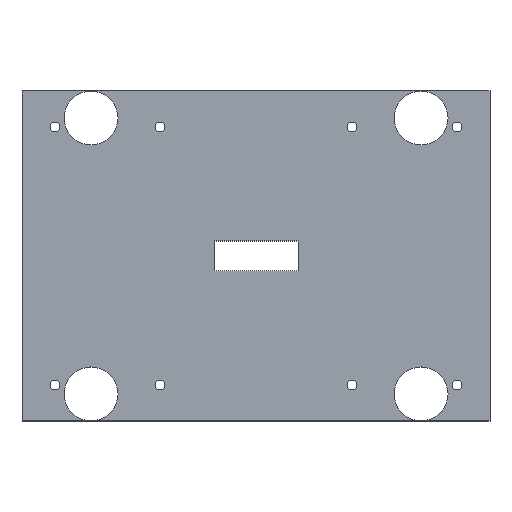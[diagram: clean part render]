
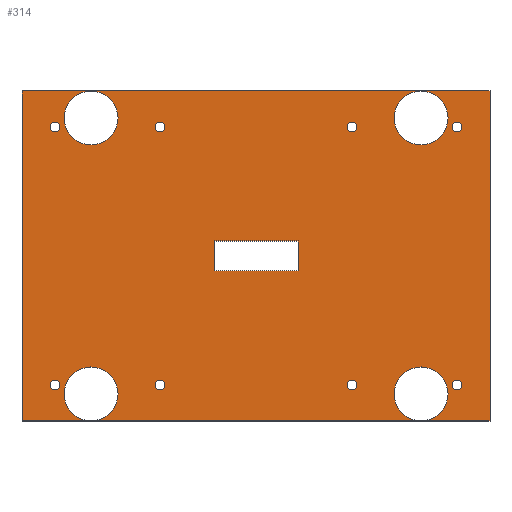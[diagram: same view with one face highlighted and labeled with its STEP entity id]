
A CAD part, top view. The second image highlights one B-rep face of the part: STEP entity #314.
In plain terms, the highlighted planar face has unit normal (0, 0, 1).
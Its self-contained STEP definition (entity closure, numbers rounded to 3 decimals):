
#288 = VERTEX_POINT('',#289);
#289 = CARTESIAN_POINT('',(-78.,55.,56.5));
#295 = EDGE_CURVE('',#288,#296,#298,.T.);
#296 = VERTEX_POINT('',#297);
#297 = CARTESIAN_POINT('',(-78.,-55.,56.5));
#298 = LINE('',#299,#300);
#299 = CARTESIAN_POINT('',(-78.,55.,56.5));
#300 = VECTOR('',#301,1.);
#301 = DIRECTION('',(0.,-1.,0.));
#314 = ADVANCED_FACE('',(#315,#372,#383,#401,#412,#423,#441,#452,#463,
    #481,#492,#526,#537,#555),#566,.T.);
#315 = FACE_BOUND('',#316,.T.);
#316 = EDGE_LOOP('',(#317,#318,#326,#334,#342,#350,#358,#366));
#317 = ORIENTED_EDGE('',*,*,#295,.T.);
#318 = ORIENTED_EDGE('',*,*,#319,.T.);
#319 = EDGE_CURVE('',#296,#320,#322,.T.);
#320 = VERTEX_POINT('',#321);
#321 = CARTESIAN_POINT('',(-55.,-55.,56.5));
#322 = LINE('',#323,#324);
#323 = CARTESIAN_POINT('',(-78.,-55.,56.5));
#324 = VECTOR('',#325,1.);
#325 = DIRECTION('',(1.,0.,0.));
#326 = ORIENTED_EDGE('',*,*,#327,.T.);
#327 = EDGE_CURVE('',#320,#328,#330,.T.);
#328 = VERTEX_POINT('',#329);
#329 = CARTESIAN_POINT('',(55.,-55.,56.5));
#330 = LINE('',#331,#332);
#331 = CARTESIAN_POINT('',(-78.,-55.,56.5));
#332 = VECTOR('',#333,1.);
#333 = DIRECTION('',(1.,0.,0.));
#334 = ORIENTED_EDGE('',*,*,#335,.T.);
#335 = EDGE_CURVE('',#328,#336,#338,.T.);
#336 = VERTEX_POINT('',#337);
#337 = CARTESIAN_POINT('',(78.,-55.,56.5));
#338 = LINE('',#339,#340);
#339 = CARTESIAN_POINT('',(-78.,-55.,56.5));
#340 = VECTOR('',#341,1.);
#341 = DIRECTION('',(1.,0.,0.));
#342 = ORIENTED_EDGE('',*,*,#343,.T.);
#343 = EDGE_CURVE('',#336,#344,#346,.T.);
#344 = VERTEX_POINT('',#345);
#345 = CARTESIAN_POINT('',(78.,55.,56.5));
#346 = LINE('',#347,#348);
#347 = CARTESIAN_POINT('',(78.,-55.,56.5));
#348 = VECTOR('',#349,1.);
#349 = DIRECTION('',(0.,1.,0.));
#350 = ORIENTED_EDGE('',*,*,#351,.T.);
#351 = EDGE_CURVE('',#344,#352,#354,.T.);
#352 = VERTEX_POINT('',#353);
#353 = CARTESIAN_POINT('',(55.,55.,56.5));
#354 = LINE('',#355,#356);
#355 = CARTESIAN_POINT('',(78.,55.,56.5));
#356 = VECTOR('',#357,1.);
#357 = DIRECTION('',(-1.,0.,0.));
#358 = ORIENTED_EDGE('',*,*,#359,.T.);
#359 = EDGE_CURVE('',#352,#360,#362,.T.);
#360 = VERTEX_POINT('',#361);
#361 = CARTESIAN_POINT('',(-55.,55.,56.5));
#362 = LINE('',#363,#364);
#363 = CARTESIAN_POINT('',(78.,55.,56.5));
#364 = VECTOR('',#365,1.);
#365 = DIRECTION('',(-1.,0.,0.));
#366 = ORIENTED_EDGE('',*,*,#367,.T.);
#367 = EDGE_CURVE('',#360,#288,#368,.T.);
#368 = LINE('',#369,#370);
#369 = CARTESIAN_POINT('',(78.,55.,56.5));
#370 = VECTOR('',#371,1.);
#371 = DIRECTION('',(-1.,0.,0.));
#372 = FACE_BOUND('',#373,.T.);
#373 = EDGE_LOOP('',(#374));
#374 = ORIENTED_EDGE('',*,*,#375,.F.);
#375 = EDGE_CURVE('',#376,#376,#378,.T.);
#376 = VERTEX_POINT('',#377);
#377 = CARTESIAN_POINT('',(-65.35,-43.,56.5));
#378 = CIRCLE('',#379,1.65);
#379 = AXIS2_PLACEMENT_3D('',#380,#381,#382);
#380 = CARTESIAN_POINT('',(-67.,-43.,56.5));
#381 = DIRECTION('',(0.,0.,1.));
#382 = DIRECTION('',(1.,0.,0.));
#383 = FACE_BOUND('',#384,.T.);
#384 = EDGE_LOOP('',(#385,#394));
#385 = ORIENTED_EDGE('',*,*,#386,.F.);
#386 = EDGE_CURVE('',#320,#387,#389,.T.);
#387 = VERTEX_POINT('',#388);
#388 = CARTESIAN_POINT('',(-46.,-46.,56.5));
#389 = CIRCLE('',#390,9.);
#390 = AXIS2_PLACEMENT_3D('',#391,#392,#393);
#391 = CARTESIAN_POINT('',(-55.,-46.,56.5));
#392 = DIRECTION('',(0.,0.,1.));
#393 = DIRECTION('',(1.,0.,0.));
#394 = ORIENTED_EDGE('',*,*,#395,.F.);
#395 = EDGE_CURVE('',#387,#320,#396,.T.);
#396 = CIRCLE('',#397,9.);
#397 = AXIS2_PLACEMENT_3D('',#398,#399,#400);
#398 = CARTESIAN_POINT('',(-55.,-46.,56.5));
#399 = DIRECTION('',(0.,0.,1.));
#400 = DIRECTION('',(1.,0.,0.));
#401 = FACE_BOUND('',#402,.T.);
#402 = EDGE_LOOP('',(#403));
#403 = ORIENTED_EDGE('',*,*,#404,.F.);
#404 = EDGE_CURVE('',#405,#405,#407,.T.);
#405 = VERTEX_POINT('',#406);
#406 = CARTESIAN_POINT('',(-30.35,-43.,56.5));
#407 = CIRCLE('',#408,1.65);
#408 = AXIS2_PLACEMENT_3D('',#409,#410,#411);
#409 = CARTESIAN_POINT('',(-32.,-43.,56.5));
#410 = DIRECTION('',(0.,0.,1.));
#411 = DIRECTION('',(1.,0.,0.));
#412 = FACE_BOUND('',#413,.T.);
#413 = EDGE_LOOP('',(#414));
#414 = ORIENTED_EDGE('',*,*,#415,.F.);
#415 = EDGE_CURVE('',#416,#416,#418,.T.);
#416 = VERTEX_POINT('',#417);
#417 = CARTESIAN_POINT('',(33.65,-43.,56.5));
#418 = CIRCLE('',#419,1.65);
#419 = AXIS2_PLACEMENT_3D('',#420,#421,#422);
#420 = CARTESIAN_POINT('',(32.,-43.,56.5));
#421 = DIRECTION('',(0.,0.,1.));
#422 = DIRECTION('',(1.,0.,0.));
#423 = FACE_BOUND('',#424,.T.);
#424 = EDGE_LOOP('',(#425,#434));
#425 = ORIENTED_EDGE('',*,*,#426,.F.);
#426 = EDGE_CURVE('',#328,#427,#429,.T.);
#427 = VERTEX_POINT('',#428);
#428 = CARTESIAN_POINT('',(64.,-46.,56.5));
#429 = CIRCLE('',#430,9.);
#430 = AXIS2_PLACEMENT_3D('',#431,#432,#433);
#431 = CARTESIAN_POINT('',(55.,-46.,56.5));
#432 = DIRECTION('',(0.,0.,1.));
#433 = DIRECTION('',(1.,0.,0.));
#434 = ORIENTED_EDGE('',*,*,#435,.F.);
#435 = EDGE_CURVE('',#427,#328,#436,.T.);
#436 = CIRCLE('',#437,9.);
#437 = AXIS2_PLACEMENT_3D('',#438,#439,#440);
#438 = CARTESIAN_POINT('',(55.,-46.,56.5));
#439 = DIRECTION('',(0.,0.,1.));
#440 = DIRECTION('',(1.,0.,0.));
#441 = FACE_BOUND('',#442,.T.);
#442 = EDGE_LOOP('',(#443));
#443 = ORIENTED_EDGE('',*,*,#444,.F.);
#444 = EDGE_CURVE('',#445,#445,#447,.T.);
#445 = VERTEX_POINT('',#446);
#446 = CARTESIAN_POINT('',(68.65,-43.,56.5));
#447 = CIRCLE('',#448,1.65);
#448 = AXIS2_PLACEMENT_3D('',#449,#450,#451);
#449 = CARTESIAN_POINT('',(67.,-43.,56.5));
#450 = DIRECTION('',(0.,0.,1.));
#451 = DIRECTION('',(1.,0.,0.));
#452 = FACE_BOUND('',#453,.T.);
#453 = EDGE_LOOP('',(#454));
#454 = ORIENTED_EDGE('',*,*,#455,.F.);
#455 = EDGE_CURVE('',#456,#456,#458,.T.);
#456 = VERTEX_POINT('',#457);
#457 = CARTESIAN_POINT('',(-65.35,43.,56.5));
#458 = CIRCLE('',#459,1.65);
#459 = AXIS2_PLACEMENT_3D('',#460,#461,#462);
#460 = CARTESIAN_POINT('',(-67.,43.,56.5));
#461 = DIRECTION('',(0.,0.,1.));
#462 = DIRECTION('',(1.,0.,0.));
#463 = FACE_BOUND('',#464,.T.);
#464 = EDGE_LOOP('',(#465,#474));
#465 = ORIENTED_EDGE('',*,*,#466,.F.);
#466 = EDGE_CURVE('',#360,#467,#469,.T.);
#467 = VERTEX_POINT('',#468);
#468 = CARTESIAN_POINT('',(-46.,46.,56.5));
#469 = CIRCLE('',#470,9.);
#470 = AXIS2_PLACEMENT_3D('',#471,#472,#473);
#471 = CARTESIAN_POINT('',(-55.,46.,56.5));
#472 = DIRECTION('',(0.,0.,1.));
#473 = DIRECTION('',(1.,0.,0.));
#474 = ORIENTED_EDGE('',*,*,#475,.F.);
#475 = EDGE_CURVE('',#467,#360,#476,.T.);
#476 = CIRCLE('',#477,9.);
#477 = AXIS2_PLACEMENT_3D('',#478,#479,#480);
#478 = CARTESIAN_POINT('',(-55.,46.,56.5));
#479 = DIRECTION('',(0.,0.,1.));
#480 = DIRECTION('',(1.,0.,0.));
#481 = FACE_BOUND('',#482,.T.);
#482 = EDGE_LOOP('',(#483));
#483 = ORIENTED_EDGE('',*,*,#484,.F.);
#484 = EDGE_CURVE('',#485,#485,#487,.T.);
#485 = VERTEX_POINT('',#486);
#486 = CARTESIAN_POINT('',(-30.35,43.,56.5));
#487 = CIRCLE('',#488,1.65);
#488 = AXIS2_PLACEMENT_3D('',#489,#490,#491);
#489 = CARTESIAN_POINT('',(-32.,43.,56.5));
#490 = DIRECTION('',(0.,0.,1.));
#491 = DIRECTION('',(1.,0.,0.));
#492 = FACE_BOUND('',#493,.T.);
#493 = EDGE_LOOP('',(#494,#504,#512,#520));
#494 = ORIENTED_EDGE('',*,*,#495,.F.);
#495 = EDGE_CURVE('',#496,#498,#500,.T.);
#496 = VERTEX_POINT('',#497);
#497 = CARTESIAN_POINT('',(-14.,-5.,56.5));
#498 = VERTEX_POINT('',#499);
#499 = CARTESIAN_POINT('',(14.,-5.,56.5));
#500 = LINE('',#501,#502);
#501 = CARTESIAN_POINT('',(-14.,-5.,56.5));
#502 = VECTOR('',#503,1.);
#503 = DIRECTION('',(1.,0.,0.));
#504 = ORIENTED_EDGE('',*,*,#505,.F.);
#505 = EDGE_CURVE('',#506,#496,#508,.T.);
#506 = VERTEX_POINT('',#507);
#507 = CARTESIAN_POINT('',(-14.,5.,56.5));
#508 = LINE('',#509,#510);
#509 = CARTESIAN_POINT('',(-14.,5.,56.5));
#510 = VECTOR('',#511,1.);
#511 = DIRECTION('',(0.,-1.,0.));
#512 = ORIENTED_EDGE('',*,*,#513,.F.);
#513 = EDGE_CURVE('',#514,#506,#516,.T.);
#514 = VERTEX_POINT('',#515);
#515 = CARTESIAN_POINT('',(14.,5.,56.5));
#516 = LINE('',#517,#518);
#517 = CARTESIAN_POINT('',(14.,5.,56.5));
#518 = VECTOR('',#519,1.);
#519 = DIRECTION('',(-1.,0.,0.));
#520 = ORIENTED_EDGE('',*,*,#521,.F.);
#521 = EDGE_CURVE('',#498,#514,#522,.T.);
#522 = LINE('',#523,#524);
#523 = CARTESIAN_POINT('',(14.,-5.,56.5));
#524 = VECTOR('',#525,1.);
#525 = DIRECTION('',(0.,1.,0.));
#526 = FACE_BOUND('',#527,.T.);
#527 = EDGE_LOOP('',(#528));
#528 = ORIENTED_EDGE('',*,*,#529,.F.);
#529 = EDGE_CURVE('',#530,#530,#532,.T.);
#530 = VERTEX_POINT('',#531);
#531 = CARTESIAN_POINT('',(33.65,43.,56.5));
#532 = CIRCLE('',#533,1.65);
#533 = AXIS2_PLACEMENT_3D('',#534,#535,#536);
#534 = CARTESIAN_POINT('',(32.,43.,56.5));
#535 = DIRECTION('',(0.,0.,1.));
#536 = DIRECTION('',(1.,0.,0.));
#537 = FACE_BOUND('',#538,.T.);
#538 = EDGE_LOOP('',(#539,#548));
#539 = ORIENTED_EDGE('',*,*,#540,.F.);
#540 = EDGE_CURVE('',#352,#541,#543,.T.);
#541 = VERTEX_POINT('',#542);
#542 = CARTESIAN_POINT('',(64.,46.,56.5));
#543 = CIRCLE('',#544,9.);
#544 = AXIS2_PLACEMENT_3D('',#545,#546,#547);
#545 = CARTESIAN_POINT('',(55.,46.,56.5));
#546 = DIRECTION('',(0.,0.,1.));
#547 = DIRECTION('',(1.,0.,0.));
#548 = ORIENTED_EDGE('',*,*,#549,.F.);
#549 = EDGE_CURVE('',#541,#352,#550,.T.);
#550 = CIRCLE('',#551,9.);
#551 = AXIS2_PLACEMENT_3D('',#552,#553,#554);
#552 = CARTESIAN_POINT('',(55.,46.,56.5));
#553 = DIRECTION('',(0.,0.,1.));
#554 = DIRECTION('',(1.,0.,0.));
#555 = FACE_BOUND('',#556,.T.);
#556 = EDGE_LOOP('',(#557));
#557 = ORIENTED_EDGE('',*,*,#558,.F.);
#558 = EDGE_CURVE('',#559,#559,#561,.T.);
#559 = VERTEX_POINT('',#560);
#560 = CARTESIAN_POINT('',(68.65,43.,56.5));
#561 = CIRCLE('',#562,1.65);
#562 = AXIS2_PLACEMENT_3D('',#563,#564,#565);
#563 = CARTESIAN_POINT('',(67.,43.,56.5));
#564 = DIRECTION('',(0.,0.,1.));
#565 = DIRECTION('',(1.,0.,0.));
#566 = PLANE('',#567);
#567 = AXIS2_PLACEMENT_3D('',#568,#569,#570);
#568 = CARTESIAN_POINT('',(0.,0.,56.5));
#569 = DIRECTION('',(0.,0.,1.));
#570 = DIRECTION('',(1.,0.,0.));
